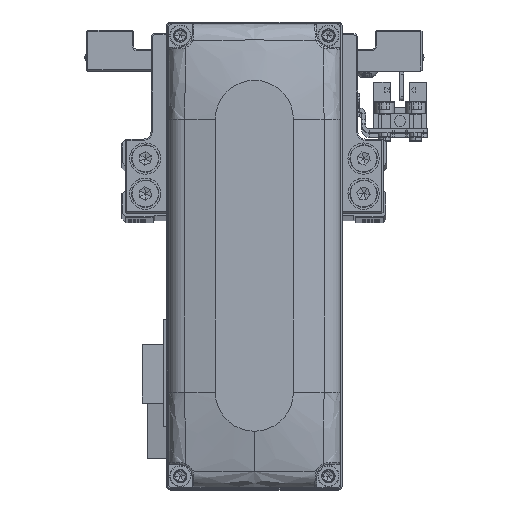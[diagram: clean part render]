
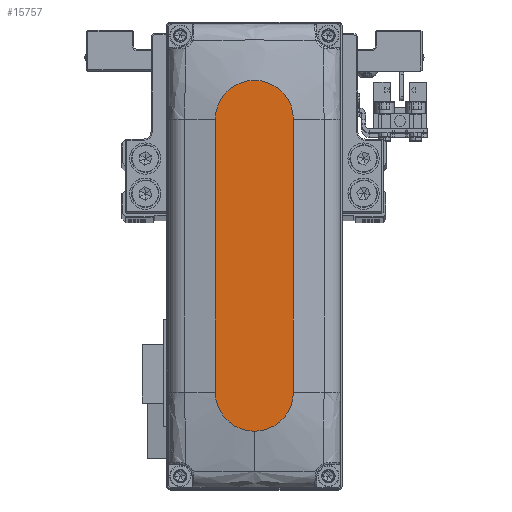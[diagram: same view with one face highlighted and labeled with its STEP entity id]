
A CAD part, top view. The second image highlights one B-rep face of the part: STEP entity #15757.
In plain terms, the highlighted planar face has unit normal (0, 0, 1).
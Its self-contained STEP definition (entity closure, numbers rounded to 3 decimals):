
#476 = ORIENTED_EDGE ( 'NONE', *, *, #23189, .T. ) ;
#2597 = DIRECTION ( 'NONE',  ( 0., 0., 1. ) ) ;
#2754 = CARTESIAN_POINT ( 'NONE',  ( -35., -10., 28. ) ) ;
#3862 = DIRECTION ( 'NONE',  ( 0., 0., 1. ) ) ;
#5091 = CARTESIAN_POINT ( 'NONE',  ( -35., 0., 28. ) ) ;
#5728 = FACE_OUTER_BOUND ( 'NONE', #33521, .T. ) ;
#6819 = CARTESIAN_POINT ( 'NONE',  ( -35., -10., 28. ) ) ;
#7445 = DIRECTION ( 'NONE',  ( 1., 0., 0. ) ) ;
#9313 = EDGE_CURVE ( 'NONE', #30392, #19963, #27596, .T. ) ;
#9558 = AXIS2_PLACEMENT_3D ( 'NONE', #32538, #3862, #16645 ) ;
#9625 = CARTESIAN_POINT ( 'NONE',  ( 35., -10., 28. ) ) ;
#11165 = CARTESIAN_POINT ( 'NONE',  ( 45., 0., 28. ) ) ;
#13687 = LINE ( 'NONE', #26457, #37221 ) ;
#14998 = CARTESIAN_POINT ( 'NONE',  ( 35., 10., 28. ) ) ;
#15089 = ORIENTED_EDGE ( 'NONE', *, *, #41336, .T. ) ;
#15373 = DIRECTION ( 'NONE',  ( 1., 0., 0. ) ) ;
#15530 = DIRECTION ( 'NONE',  ( 1., 0., 0. ) ) ;
#15620 = ORIENTED_EDGE ( 'NONE', *, *, #9313, .T. ) ;
#15655 = AXIS2_PLACEMENT_3D ( 'NONE', #5091, #17876, #30653 ) ;
#15757 = ADVANCED_FACE ( 'NONE', ( #5728 ), #18506, .T. ) ;
#16587 = EDGE_CURVE ( 'NONE', #35966, #36250, #33687, .T. ) ;
#16645 = DIRECTION ( 'NONE',  ( 1., 0., 0. ) ) ;
#17876 = DIRECTION ( 'NONE',  ( 0., 0., 1. ) ) ;
#18506 = PLANE ( 'NONE',  #36404 ) ;
#19963 = VERTEX_POINT ( 'NONE', #14998 ) ;
#23189 = EDGE_CURVE ( 'NONE', #19963, #35966, #13687, .T. ) ;
#23378 = CARTESIAN_POINT ( 'NONE',  ( 35., 0., 28. ) ) ;
#24339 = ORIENTED_EDGE ( 'NONE', *, *, #37032, .T. ) ;
#24782 = ORIENTED_EDGE ( 'NONE', *, *, #16587, .T. ) ;
#24871 = CIRCLE ( 'NONE', #30211, 10. ) ;
#26457 = CARTESIAN_POINT ( 'NONE',  ( -35., 10., 28. ) ) ;
#27117 = CARTESIAN_POINT ( 'NONE',  ( -35., 10., 28. ) ) ;
#27596 = CIRCLE ( 'NONE', #9558, 10. ) ;
#30211 = AXIS2_PLACEMENT_3D ( 'NONE', #23378, #36131, #7445 ) ;
#30392 = VERTEX_POINT ( 'NONE', #11165 ) ;
#30653 = DIRECTION ( 'NONE',  ( 1., 0., 0. ) ) ;
#31287 = CARTESIAN_POINT ( 'NONE',  ( 0., 0., 28. ) ) ;
#31444 = LINE ( 'NONE', #2754, #37376 ) ;
#32538 = CARTESIAN_POINT ( 'NONE',  ( 35., 0., 28. ) ) ;
#33521 = EDGE_LOOP ( 'NONE', ( #476, #24782, #24339, #15089, #15620 ) ) ;
#33687 = CIRCLE ( 'NONE', #15655, 10. ) ;
#35966 = VERTEX_POINT ( 'NONE', #27117 ) ;
#36131 = DIRECTION ( 'NONE',  ( 0., 0., 1. ) ) ;
#36250 = VERTEX_POINT ( 'NONE', #6819 ) ;
#36404 = AXIS2_PLACEMENT_3D ( 'NONE', #31287, #2597, #15373 ) ;
#37032 = EDGE_CURVE ( 'NONE', #36250, #40754, #31444, .T. ) ;
#37221 = VECTOR ( 'NONE', #39193, 1000. ) ;
#37376 = VECTOR ( 'NONE', #15530, 1000. ) ;
#39193 = DIRECTION ( 'NONE',  ( -1., 0., 0. ) ) ;
#40754 = VERTEX_POINT ( 'NONE', #9625 ) ;
#41336 = EDGE_CURVE ( 'NONE', #40754, #30392, #24871, .T. ) ;
